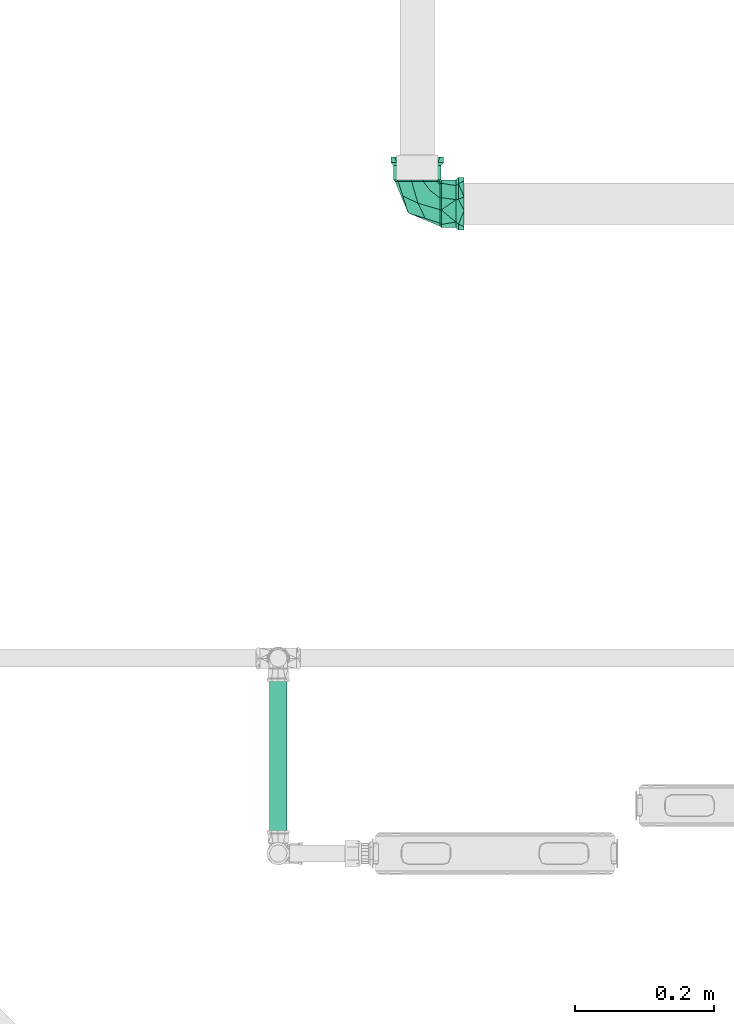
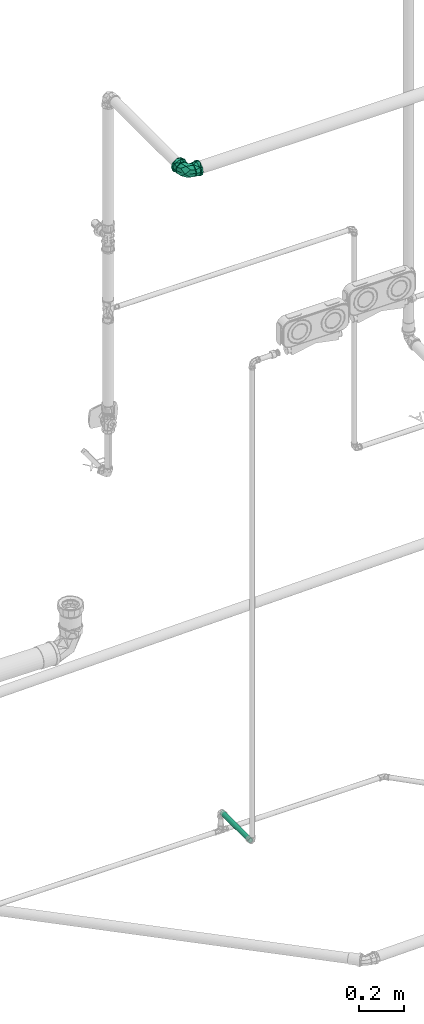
# One storey, part 237 of 589: 1 flow fitting, 1 flow segment.
"""IFC2X3 building model written with IfcOpenShell, lengths in millimetres."""

from ifc_helpers import new_model, entity, si_unit, converted_unit, derived_unit, direction, frame, frame_2d, origin, place, context, subcontext, project, spatial, circle, extrude, faceted_brep, source, transform, mapped, material, type_object, type_shapes, element, save


model = new_model("IFC2X3")

# Units and contexts
model_context = context("Model", 3, precision=0.01, world=origin(), true_north=direction((6.123031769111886e-17, 1.0)))
body_context = subcontext(model_context, "Body", "Model", "MODEL_VIEW")
ifc_project = project(units=[si_unit("LENGTHUNIT", "METRE", prefix="MILLI"), si_unit("AREAUNIT", "SQUARE_METRE"), si_unit("VOLUMEUNIT", "CUBIC_METRE"), converted_unit("PLANEANGLEUNIT", "DEGREE", entity("IfcRatioMeasure", 0.017453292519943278), si_unit("PLANEANGLEUNIT", "RADIAN"), dimensions=[0, 0, 0, 0, 0, 0, 0]), si_unit("MASSUNIT", "GRAM", prefix="KILO"), derived_unit("MASSDENSITYUNIT", [(si_unit("MASSUNIT", "GRAM", prefix="KILO"), 1), (si_unit("LENGTHUNIT", "METRE"), -3)]), derived_unit("IONCONCENTRATIONUNIT", [(si_unit("MASSUNIT", "GRAM", prefix="KILO"), 1), (si_unit("LENGTHUNIT", "METRE"), -3)]), derived_unit("MOMENTOFINERTIAUNIT", [(si_unit("LENGTHUNIT", "METRE"), 4)]), si_unit("TIMEUNIT", "SECOND"), si_unit("FREQUENCYUNIT", "HERTZ"), si_unit("THERMODYNAMICTEMPERATUREUNIT", "DEGREE_CELSIUS"), derived_unit("THERMALTRANSMITTANCEUNIT", [(si_unit("MASSUNIT", "GRAM", prefix="KILO"), 1), (si_unit("THERMODYNAMICTEMPERATUREUNIT", "KELVIN"), -1), (si_unit("TIMEUNIT", "SECOND"), -3)]), derived_unit("THERMALCONDUCTANCEUNIT", [(si_unit("MASSUNIT", "GRAM", prefix="KILO"), 1), (si_unit("THERMODYNAMICTEMPERATUREUNIT", "KELVIN"), -1), (si_unit("TIMEUNIT", "SECOND"), -3), (si_unit("LENGTHUNIT", "METRE"), 1)]), derived_unit("VOLUMETRICFLOWRATEUNIT", [(si_unit("LENGTHUNIT", "METRE"), 3), (si_unit("TIMEUNIT", "SECOND"), -1)]), derived_unit("MASSFLOWRATEUNIT", [(si_unit("MASSUNIT", "GRAM", prefix="KILO"), 1), (si_unit("TIMEUNIT", "SECOND"), -1)]), derived_unit("ROTATIONALFREQUENCYUNIT", [(si_unit("TIMEUNIT", "SECOND"), -1)]), si_unit("ELECTRICCURRENTUNIT", "AMPERE"), si_unit("ELECTRICVOLTAGEUNIT", "VOLT"), si_unit("POWERUNIT", "WATT"), si_unit("FORCEUNIT", "NEWTON", prefix="KILO"), si_unit("ILLUMINANCEUNIT", "LUX"), si_unit("LUMINOUSFLUXUNIT", "LUMEN"), si_unit("LUMINOUSINTENSITYUNIT", "CANDELA"), derived_unit("USERDEFINED", [(si_unit("MASSUNIT", "GRAM", prefix="KILO"), -1), (si_unit("LENGTHUNIT", "METRE"), -2), (si_unit("TIMEUNIT", "SECOND"), 3), (si_unit("LUMINOUSFLUXUNIT", "LUMEN"), 1)]), derived_unit("USERDEFINED", [(si_unit("MASSUNIT", "GRAM", prefix="KILO"), 1), (si_unit("TIMEUNIT", "SECOND"), -3), (si_unit("LENGTHUNIT", "METRE"), 3), (si_unit("ELECTRICCURRENTUNIT", "AMPERE"), -2)]), derived_unit("SOUNDPOWERUNIT", [(si_unit("MASSUNIT", "GRAM", prefix="KILO"), 1), (si_unit("TIMEUNIT", "SECOND"), -3), (si_unit("LENGTHUNIT", "METRE"), 2)]), derived_unit("SOUNDPRESSUREUNIT", [(si_unit("MASSUNIT", "GRAM", prefix="KILO"), 1), (si_unit("LENGTHUNIT", "METRE"), -1), (si_unit("TIMEUNIT", "SECOND"), -2)]), derived_unit("LINEARVELOCITYUNIT", [(si_unit("LENGTHUNIT", "METRE"), 1), (si_unit("TIMEUNIT", "SECOND"), -1)]), si_unit("PRESSUREUNIT", "PASCAL"), derived_unit("USERDEFINED", [(si_unit("MASSUNIT", "GRAM", prefix="KILO"), 1), (si_unit("LENGTHUNIT", "METRE"), -2), (si_unit("TIMEUNIT", "SECOND"), -2)]), derived_unit("LINEARFORCEUNIT", [(si_unit("MASSUNIT", "GRAM", prefix="KILO"), 1), (si_unit("TIMEUNIT", "SECOND"), -2)]), derived_unit("PLANARFORCEUNIT", [(si_unit("MASSUNIT", "GRAM", prefix="KILO"), 1), (si_unit("LENGTHUNIT", "METRE"), -1), (si_unit("TIMEUNIT", "SECOND"), -2)]), derived_unit("SPECIFICHEATCAPACITYUNIT", [(si_unit("THERMODYNAMICTEMPERATUREUNIT", "KELVIN"), -1), (si_unit("LENGTHUNIT", "METRE"), 2), (si_unit("TIMEUNIT", "SECOND"), -2)]), derived_unit("HEATINGVALUEUNIT", [(si_unit("LENGTHUNIT", "METRE"), 2), (si_unit("TIMEUNIT", "SECOND"), -2)]), derived_unit("VAPORPERMEABILITYUNIT", [(si_unit("LENGTHUNIT", "METRE"), -1), (si_unit("TIMEUNIT", "SECOND"), 1)]), derived_unit("DYNAMICVISCOSITYUNIT", [(si_unit("MASSUNIT", "GRAM", prefix="KILO"), 1), (si_unit("TIMEUNIT", "SECOND"), -1), (si_unit("LENGTHUNIT", "METRE"), -1)]), derived_unit("THERMALEXPANSIONCOEFFICIENTUNIT", [(si_unit("THERMODYNAMICTEMPERATUREUNIT", "KELVIN"), -1)]), derived_unit("MODULUSOFELASTICITYUNIT", [(si_unit("MASSUNIT", "GRAM", prefix="KILO"), 1), (si_unit("LENGTHUNIT", "METRE"), -1), (si_unit("TIMEUNIT", "SECOND"), -2)]), derived_unit("ISOTHERMALMOISTURECAPACITYUNIT", [(si_unit("LENGTHUNIT", "METRE"), 3), (si_unit("MASSUNIT", "GRAM", prefix="KILO"), -1)]), derived_unit("MOISTUREDIFFUSIVITYUNIT", [(si_unit("TIMEUNIT", "SECOND"), -1), (si_unit("LENGTHUNIT", "METRE"), 2)])], contexts=[model_context])

# Site, building, storey
site_placement = place(None, origin())
site = spatial("IfcSite", under=ifc_project, at=site_placement, Name="Default", CompositionType="ELEMENT")
building_placement = place(site_placement, origin())
building = spatial("IfcBuilding", under=site, at=building_placement, CompositionType="ELEMENT")
storey_placement = place(building_placement, frame((0.0, 0.0, 100.0)))
storey = spatial("IfcBuildingStorey", under=building, at=storey_placement, Name="TÉRREO", CompositionType="ELEMENT", Elevation=100.0)

# Flow segment
pipe_segment_type = type_object("IfcPipeSegmentType", Name="Tipos de tubos:PVC Marrom Soldável", PredefinedType="NOTDEFINED")
flow_segment_placement = place(storey_placement, origin())
element("IfcFlowSegment", 1, at=flow_segment_placement, inside=storey, type_object=pipe_segment_type, Name="Tipos de tubos:PVC Marrom Soldável", ObjectType="Tipos de tubos:PVC Marrom Soldável", context=body_context, shape_type="SweptSolid", body=[
    extrude(circle(Radius=12.5, at=frame_2d((3.3843914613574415e-14, -8.459899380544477e-15), x_axis=(1.0, 0.0))), frame((-288.34799624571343, 1503.048090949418, -37.35980794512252), z_axis=(1.594591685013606e-05, 1.0, 0.0), x_axis=(1.0, -1.594591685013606e-05, 0.0)), (0.0, 0.0, 1.0), 250.67210993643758),
])

# Flow fitting
ifc_material = material(Name="PVC Marrom")
pipe_fitting_type = type_object("IfcPipeFittingType", Name="PVC Marrom Soldável_Joelho 45°_90°_Rodrigo MEP:Joelho", PredefinedType="NOTDEFINED", material=ifc_material)
shared_shape = source(origin(), body_context, "Body", "Brep", [
    faceted_brep([(-29.704671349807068, 34.60000000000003, 17.149999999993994), (-19.29108229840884, 34.600000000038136, 25.14062792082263), (-8.877493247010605, 34.60000000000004, 33.13125584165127), (8.877493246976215, 34.60000000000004, 33.13125584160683), (19.291082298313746, 34.60000000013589, 25.140627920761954), (29.70467134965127, 34.600000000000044, 17.149999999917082), (34.29999999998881, 34.600000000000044, 0.0), (29.7046713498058, 34.600000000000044, -17.150000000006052), (19.29108229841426, 34.599999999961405, -25.140627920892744), (8.877493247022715, 34.60000000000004, -33.13125584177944), (-8.877493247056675, 34.60000000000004, -33.13125584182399), (-19.291082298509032, 34.599999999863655, -25.140627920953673), (-29.704671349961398, 34.60000000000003, -17.150000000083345), (-34.30000000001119, 34.60000000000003, 0.0), (8.321032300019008, 32.400000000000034, 31.054515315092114), (-8.32103230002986, 32.400000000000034, 31.054515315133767), (-18.08187451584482, 32.40000000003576, 23.56475765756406), (-27.84271673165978, 32.40000000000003, 16.07499999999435), (-32.15000000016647, 32.40000000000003, 0.0), (-27.842716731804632, 32.40000000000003, -16.075000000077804), (-18.08187451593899, 32.399999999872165, -23.564757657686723), (-8.32103230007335, 32.400000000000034, -31.054515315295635), (8.32103230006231, 32.400000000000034, -31.054515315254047), (18.081874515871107, 32.399999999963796, -23.56475765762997), (27.8427167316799, 32.40000000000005, -16.07500000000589), (32.14999999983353, 32.40000000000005, 0.0), (27.84271673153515, 32.40000000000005, 16.074999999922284), (18.08187451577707, 32.400000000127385, 23.564757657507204)], [[[0, 1, 2, 3, 4, 5, 6, 7, 8, 9, 10, 11, 12, 13]], [[14, 15, 16, 17, 18, 19, 20, 21, 22, 23, 24, 25, 26, 27]], [[7, 25, 24]], [[9, 8, 7, 24, 23, 22]], [[20, 19, 12, 11, 10, 21]], [[7, 6, 25]], [[22, 21, 10, 9]], [[13, 19, 18]], [[13, 12, 19]], [[0, 18, 17]], [[2, 1, 0, 17, 16, 15]], [[27, 26, 5, 4, 3, 14]], [[0, 13, 18]], [[15, 14, 3, 2]], [[6, 26, 25]], [[6, 5, 26]]]),
    faceted_brep([(-34.599999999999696, -8.877493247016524, 33.13125584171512), (-34.599999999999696, 8.877493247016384, 33.13125584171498), (-34.59999999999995, 19.291082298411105, 25.140627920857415), (-34.599999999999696, 29.704671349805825, 17.14999999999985), (-34.599999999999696, 34.3, 0.0), (-34.599999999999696, 29.704671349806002, -17.149999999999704), (-34.60000000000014, 19.29108229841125, -25.140627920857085), (-34.599999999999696, 8.877493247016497, -33.13125584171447), (-34.599999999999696, -8.877493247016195, -33.131255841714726), (-34.59999999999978, -19.291082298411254, -25.1406279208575), (-34.599999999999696, -29.704671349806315, -17.150000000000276), (-34.599999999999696, -34.3, 0.0), (-34.599999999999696, -29.704671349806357, 17.15000000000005), (-34.59999999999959, -19.291082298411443, 25.14062792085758), (-32.3999999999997, 32.149999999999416, 0.0), (-32.3999999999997, 27.84271673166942, 16.074999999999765), (-32.39999999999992, 18.081874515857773, 23.564757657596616), (-32.3999999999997, 8.321032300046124, 31.054515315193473), (-32.3999999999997, -8.321032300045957, 31.05451531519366), (-32.39999999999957, -18.08187451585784, 23.564757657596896), (-32.3999999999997, -27.84271673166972, 16.075000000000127), (-32.3999999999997, -32.15000000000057, 0.0), (-32.3999999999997, -27.842716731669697, -16.07500000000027), (-32.39999999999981, -18.08187451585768, -23.56475765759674), (-32.3999999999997, -8.321032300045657, -31.054515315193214), (-32.3999999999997, 8.321032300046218, -31.05451531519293), (-32.40000000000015, 18.081874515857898, -23.56475765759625), (-32.3999999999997, 27.842716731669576, -16.074999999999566)], [[[0, 1, 2, 3, 4, 5, 6, 7, 8, 9, 10, 11, 12, 13]], [[14, 15, 16, 17, 18, 19, 20, 21, 22, 23, 24, 25, 26, 27]], [[5, 4, 14, 27]], [[7, 6, 5, 27, 26, 25]], [[23, 22, 10, 9, 8, 24]], [[25, 24, 8, 7]], [[11, 10, 22, 21]], [[12, 11, 21, 20]], [[0, 13, 12, 20, 19, 18]], [[16, 15, 3, 2, 1, 17]], [[18, 17, 1, 0]], [[4, 3, 15, 14]]]),
    faceted_brep([(-67.29999999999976, -9.835123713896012, -36.70518139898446), (-67.29999999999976, 0.0, -30.0), (-67.29999999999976, 9.835123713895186, -36.705181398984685), (-67.29999999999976, -15.0, -25.98076211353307), (-67.29999999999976, -32.90896534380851, -19.0), (-67.29999999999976, -28.977774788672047, -7.764571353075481), (-67.29999999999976, -38.0, 0.0), (-67.29999999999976, -28.97777478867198, 7.764571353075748), (-67.29999999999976, -32.90896534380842, 19.0), (-67.29999999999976, -15.0, 25.98076211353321), (-67.29999999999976, -9.835123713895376, 36.70518139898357), (-67.29999999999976, 0.0, 30.0), (-67.29999999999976, 9.835123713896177, 36.70518139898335), (-67.29999999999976, 15.0, 25.980762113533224), (-67.29999999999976, 32.90896534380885, 19.0), (-67.29999999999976, 28.977774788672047, 7.764571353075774), (-67.29999999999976, 38.0, 0.0), (-67.29999999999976, 28.977774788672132, -7.764571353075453), (-67.29999999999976, 32.90896534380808, -19.0), (-67.29999999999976, 15.0, -25.980762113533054), (-59.29999999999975, 38.0, 0.0), (-59.30000000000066, 29.109098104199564, 24.426633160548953), (-59.30000000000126, 6.596820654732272, 37.42301373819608), (-59.30000000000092, -29.111756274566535, 24.42346508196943), (-59.29999999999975, -38.0, 0.0), (-59.29999999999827, -29.111756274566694, -24.423465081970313), (-59.29999999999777, -6.600893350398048, -37.42229558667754), (-59.29999999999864, 29.109098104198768, -24.426633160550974), (-55.60000000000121, -26.279625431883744, 22.042488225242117), (-55.60000000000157, 5.952366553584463, 33.779569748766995), (-55.59999999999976, -34.3, 0.0), (-55.60000000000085, 26.274095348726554, 22.049079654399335), (-55.59999999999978, 34.299999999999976, 0.0), (-55.59999999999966, 26.27409534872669, -22.04907965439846), (-55.59999999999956, -5.960839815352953, -33.77807556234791), (-55.59999999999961, -26.279625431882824, -22.042488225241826), (-34.59999999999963, -15.0, -25.98076211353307), (-34.59999999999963, -8.877493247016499, -33.13125584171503), (-34.59999999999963, 0.0, -30.0), (-34.59999999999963, -29.704671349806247, -17.149999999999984), (-34.59999999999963, -28.977774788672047, -7.764571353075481), (-34.59999999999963, -34.3, 0.0), (-34.59999999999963, -28.97777478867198, 7.764571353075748), (-34.59999999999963, -29.70467134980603, 17.150000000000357), (-34.59999999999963, -15.0, 25.98076211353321), (-34.59999999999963, -8.877493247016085, 33.13125584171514), (-34.59999999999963, 0.0, 30.0), (-34.59999999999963, 8.877493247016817, 33.131255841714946), (-34.59999999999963, 15.0, 25.980762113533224), (-34.59999999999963, 29.70467134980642, 17.1499999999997), (-34.59999999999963, 28.977774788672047, 7.764571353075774), (-34.59999999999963, 34.300000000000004, 0.0), (-34.59999999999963, 28.977774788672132, -7.764571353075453), (-34.59999999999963, 29.704671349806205, -17.150000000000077), (-34.59999999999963, 15.0, -25.980762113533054), (-34.59999999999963, 8.877493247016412, -33.13125584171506)], [[[0, 1, 2]], [[1, 0, 3]], [[4, 3, 0]], [[3, 4, 5]], [[5, 4, 6]], [[7, 5, 6]], [[7, 6, 8]], [[8, 9, 7]], [[8, 10, 9]], [[9, 10, 11]], [[12, 11, 10]], [[13, 11, 12]], [[13, 12, 14]], [[14, 15, 13]], [[15, 14, 16]], [[15, 16, 17]], [[18, 17, 16]], [[2, 19, 18]], [[17, 18, 19]], [[19, 2, 1]], [[16, 14, 20]], [[14, 21, 20]], [[21, 14, 12]], [[21, 12, 22]], [[23, 10, 8]], [[24, 8, 6]], [[10, 23, 22]], [[23, 8, 24]], [[10, 22, 12]], [[6, 4, 24]], [[4, 25, 24]], [[25, 4, 0]], [[25, 0, 26]], [[27, 2, 18]], [[20, 18, 16]], [[2, 27, 26]], [[27, 18, 20]], [[2, 26, 0]], [[28, 29, 23]], [[30, 28, 24]], [[24, 28, 23]], [[29, 22, 23]], [[31, 32, 21]], [[21, 22, 31]], [[20, 21, 32]], [[31, 22, 29]], [[32, 33, 27]], [[27, 20, 32]], [[26, 27, 33]], [[33, 34, 26]], [[35, 30, 24]], [[35, 25, 34]], [[25, 35, 24]], [[34, 25, 26]], [[36, 37, 38]], [[39, 37, 36]], [[36, 40, 39]], [[40, 41, 39]], [[42, 41, 40]], [[41, 42, 43]], [[44, 43, 42]], [[43, 44, 45]], [[46, 45, 44]], [[47, 45, 46]], [[48, 47, 46]], [[47, 48, 49]], [[50, 49, 48]], [[49, 50, 51]], [[51, 50, 52]], [[51, 52, 53]], [[53, 52, 54]], [[54, 38, 55]], [[55, 53, 54]], [[37, 55, 38]], [[32, 31, 49]], [[32, 49, 51]], [[49, 31, 47]], [[31, 29, 47]], [[45, 29, 28]], [[43, 28, 30]], [[28, 43, 45]], [[43, 30, 41]], [[29, 45, 47]], [[30, 35, 39]], [[30, 39, 41]], [[39, 35, 37]], [[35, 34, 37]], [[55, 34, 33]], [[53, 33, 32]], [[33, 53, 55]], [[53, 32, 51]], [[34, 55, 37]], [[9, 11, 46, 44]], [[7, 9, 44, 42]], [[42, 40, 5, 7]], [[3, 5, 40, 36]], [[1, 3, 36, 38]], [[19, 1, 38, 54]], [[17, 19, 54, 52]], [[52, 50, 15, 17]], [[13, 15, 50, 48]], [[11, 13, 48, 46]]]),
    faceted_brep([(-32.399999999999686, -8.32103230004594, -31.054515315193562), (-32.39999999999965, -27.84271673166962, -16.075000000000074), (-32.39999999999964, -32.149999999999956, 0.0), (-32.39999999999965, -27.842716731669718, 16.074999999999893), (-32.399999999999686, -8.321032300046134, 31.054515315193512), (-32.39999999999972, 8.321032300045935, 31.054515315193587), (-32.39999999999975, 27.842716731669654, 16.075000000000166), (-32.399999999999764, 32.15000000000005, 0.0), (-32.39999999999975, 27.842716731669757, -16.074999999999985), (-32.39999999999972, 8.32103230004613, -31.054515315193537), (-8.321032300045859, 32.39999999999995, -31.054515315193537), (-27.842716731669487, 32.40000000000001, -16.074999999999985), (-32.14999999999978, 32.40000000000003, 0.0), (-27.842716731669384, 32.40000000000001, 16.075000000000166), (-8.321032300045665, 32.39999999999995, 31.054515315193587), (8.321032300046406, 32.3999999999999, 31.054515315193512), (27.842716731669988, 32.399999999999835, 16.074999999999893), (32.150000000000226, 32.39999999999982, 0.0), (27.84271673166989, 32.399999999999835, -16.075000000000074), (8.32103230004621, 32.3999999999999, -31.054515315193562), (-0.8536947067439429, 0.8536917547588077, 29.73987024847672), (-11.305135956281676, -20.93489151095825, 20.269855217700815), (-3.4548297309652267, -20.160517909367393, 0.0), (13.243742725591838, -13.243742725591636, 0.0), (20.93489020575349, 11.305132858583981, 20.26985530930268), (-32.22322330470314, 32.2232233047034, 0.0), (-18.88266617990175, 18.88266585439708, 29.27743828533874), (20.160517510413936, 3.4548287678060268, 0.0), (-11.305135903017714, -20.9348914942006, -20.269855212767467), (-18.88266604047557, 18.882665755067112, -29.277438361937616), (-0.8536944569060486, 0.853691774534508, -29.739870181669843), (20.93489014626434, 11.305132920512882, -20.269855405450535)], [[[0, 1, 2, 3, 4, 5, 6, 7, 8, 9]], [[10, 11, 12, 13, 14, 15, 16, 17, 18, 19]], [[4, 20, 5]], [[21, 3, 22]], [[23, 21, 22]], [[15, 20, 24]], [[21, 4, 3]], [[25, 6, 13]], [[23, 24, 20]], [[25, 7, 6]], [[6, 5, 26]], [[3, 2, 22]], [[20, 21, 23]], [[27, 17, 16]], [[20, 26, 5]], [[20, 4, 21]], [[24, 27, 16]], [[6, 26, 13]], [[25, 13, 12]], [[24, 16, 15]], [[20, 14, 26]], [[14, 13, 26]], [[24, 23, 27]], [[14, 20, 15]], [[28, 23, 22]], [[28, 1, 0]], [[29, 8, 11]], [[29, 30, 9]], [[2, 1, 22]], [[30, 19, 31]], [[1, 28, 22]], [[30, 0, 9]], [[23, 28, 30]], [[30, 29, 10]], [[8, 7, 25]], [[25, 12, 11]], [[23, 31, 27]], [[0, 30, 28]], [[11, 10, 29]], [[30, 10, 19]], [[18, 17, 27]], [[23, 30, 31]], [[8, 29, 9]], [[31, 19, 18]], [[18, 27, 31]], [[11, 8, 25]]]),
    faceted_brep([(-15.0, 34.60000000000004, -25.98076211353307), (-8.877493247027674, 34.60000000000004, -33.13125584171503), (0.0, 34.600000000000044, -30.0), (-29.704671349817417, 34.60000000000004, -17.149999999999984), (-28.977774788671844, 34.60000000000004, -7.764571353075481), (-34.30000000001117, 34.60000000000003, 0.0), (-28.977774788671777, 34.60000000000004, 7.764571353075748), (-29.704671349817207, 34.60000000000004, 17.150000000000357), (-15.0, 34.60000000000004, 25.980762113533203), (-8.87749324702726, 34.60000000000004, 33.13125584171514), (0.0, 34.600000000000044, 30.0), (8.877493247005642, 34.60000000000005, 33.131255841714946), (15.0, 34.60000000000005, 25.980762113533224), (29.704671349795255, 34.60000000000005, 17.149999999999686), (28.97777478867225, 34.60000000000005, 7.764571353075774), (34.29999999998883, 34.60000000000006, 0.0), (28.977774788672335, 34.60000000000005, -7.764571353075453), (29.704671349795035, 34.60000000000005, -17.150000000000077), (15.0, 34.60000000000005, -25.980762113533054), (8.877493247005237, 34.60000000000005, -33.13125584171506), (34.29999999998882, 55.600000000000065, 0.0), (26.2740953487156, 55.60000000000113, 22.049079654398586), (-5.960839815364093, 55.60000000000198, 33.77807556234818), (-26.279625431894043, 55.60000000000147, 22.042488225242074), (-34.30000000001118, 55.600000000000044, 0.0), (-26.279625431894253, 55.6000000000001, -22.04248822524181), (5.952366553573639, 55.599999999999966, -33.779569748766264), (26.27409534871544, 55.59999999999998, -22.049079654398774), (-29.10909810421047, 59.3000000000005, 24.426633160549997), (-38.0, 59.30000000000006, 0.0), (-6.59682065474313, 59.300000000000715, 37.42301373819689), (29.11175627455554, 59.30000000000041, 24.423465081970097), (38.0, 59.29999999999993, 0.0), (29.11175627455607, 59.30000000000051, -24.42346508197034), (6.600893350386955, 59.30000000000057, -37.42229558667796), (-29.109098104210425, 59.30000000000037, -24.426633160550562), (-9.835123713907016, 67.30000000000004, -36.705181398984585), (-15.0, 67.30000000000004, -25.98076211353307), (0.0, 67.30000000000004, -30.0), (-32.90896534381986, 67.30000000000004, -19.0), (9.835123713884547, 67.30000000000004, -36.705181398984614), (-28.97777478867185, 67.30000000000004, -7.764571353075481), (-38.0, 67.30000000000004, 0.0), (-28.977774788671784, 67.30000000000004, 7.764571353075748), (-32.90896534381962, 67.30000000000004, 19.0), (-15.0, 67.30000000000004, 25.98076211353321), (-9.835123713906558, 67.30000000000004, 36.705181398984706), (0.0, 67.30000000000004, 30.0), (9.835123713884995, 67.30000000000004, 36.705181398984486), (15.0, 67.30000000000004, 25.980762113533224), (32.90896534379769, 67.30000000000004, 19.0), (28.97777478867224, 67.30000000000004, 7.764571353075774), (38.0, 67.30000000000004, 0.0), (28.977774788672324, 67.30000000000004, -7.764571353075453), (32.90896534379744, 67.30000000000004, -19.0), (15.0, 67.30000000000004, -25.980762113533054)], [[[0, 1, 2]], [[3, 1, 0]], [[0, 4, 3]], [[4, 5, 3]], [[6, 5, 4]], [[5, 6, 7]], [[8, 7, 6]], [[7, 8, 9]], [[10, 9, 8]], [[11, 9, 10]], [[12, 11, 10]], [[11, 12, 13]], [[14, 13, 12]], [[13, 14, 15]], [[15, 14, 16]], [[15, 16, 17]], [[17, 16, 18]], [[18, 2, 19]], [[19, 17, 18]], [[1, 19, 2]], [[20, 21, 13]], [[20, 13, 15]], [[13, 21, 11]], [[21, 22, 11]], [[9, 22, 23]], [[7, 23, 24]], [[23, 7, 9]], [[7, 24, 5]], [[22, 9, 11]], [[24, 25, 3]], [[24, 3, 5]], [[3, 25, 1]], [[25, 26, 1]], [[19, 26, 27]], [[17, 27, 20]], [[27, 17, 19]], [[17, 20, 15]], [[26, 19, 1]], [[23, 22, 28]], [[24, 23, 29]], [[29, 23, 28]], [[22, 30, 28]], [[21, 20, 31]], [[31, 30, 21]], [[32, 31, 20]], [[21, 30, 22]], [[20, 27, 33]], [[33, 32, 20]], [[34, 33, 27]], [[27, 26, 34]], [[25, 24, 29]], [[25, 35, 26]], [[35, 25, 29]], [[26, 35, 34]], [[36, 37, 38]], [[37, 36, 39]], [[38, 40, 36]], [[39, 41, 37]], [[39, 42, 41]], [[41, 42, 43]], [[44, 43, 42]], [[43, 44, 45]], [[46, 45, 44]], [[45, 46, 47]], [[47, 46, 48]], [[48, 49, 47]], [[50, 49, 48]], [[49, 50, 51]], [[52, 51, 50]], [[52, 53, 51]], [[54, 53, 52]], [[55, 53, 54]], [[55, 54, 40]], [[40, 38, 55]], [[52, 50, 32]], [[50, 31, 32]], [[31, 50, 48]], [[31, 48, 30]], [[28, 46, 44]], [[29, 44, 42]], [[46, 28, 30]], [[28, 44, 29]], [[46, 30, 48]], [[42, 39, 29]], [[39, 35, 29]], [[35, 39, 36]], [[35, 36, 34]], [[33, 40, 54]], [[32, 54, 52]], [[40, 33, 34]], [[33, 54, 32]], [[40, 34, 36]], [[45, 47, 10, 8]], [[43, 45, 8, 6]], [[6, 4, 41, 43]], [[37, 41, 4, 0]], [[38, 37, 0, 2]], [[55, 38, 2, 18]], [[53, 55, 18, 16]], [[16, 14, 51, 53]], [[49, 51, 14, 12]], [[47, 49, 12, 10]]]),
])
type_shapes(pipe_fitting_type, [shared_shape])
flow_fitting_placement = place(storey_placement, frame((-87.78535366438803, 2424.357557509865, 2970.0), z_axis=(0.0, 0.0, 1.0), x_axis=(0.0, -1.0, 0.0)))
element("IfcFlowFitting", 2, at=flow_fitting_placement, inside=storey, type_object=pipe_fitting_type, material=ifc_material, Name="PVC Marrom Soldável_Joelho 45°_90°_Rodrigo MEP:Joelho", ObjectType="PVC Marrom Soldável_Joelho 45°_90°_Rodrigo MEP:Joelho", context=body_context, shape_type="MappedRepresentation", body=[
    mapped(shared_shape, transform((0.0, 0.0, 0.0), scale=1.0)),
])

save(model, "model.ifc")
